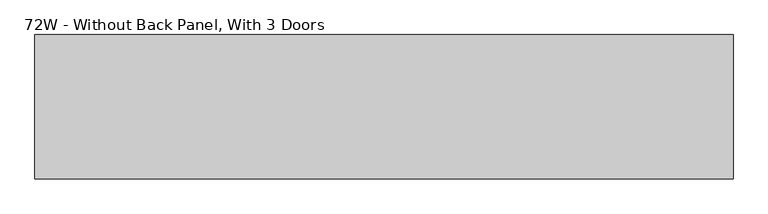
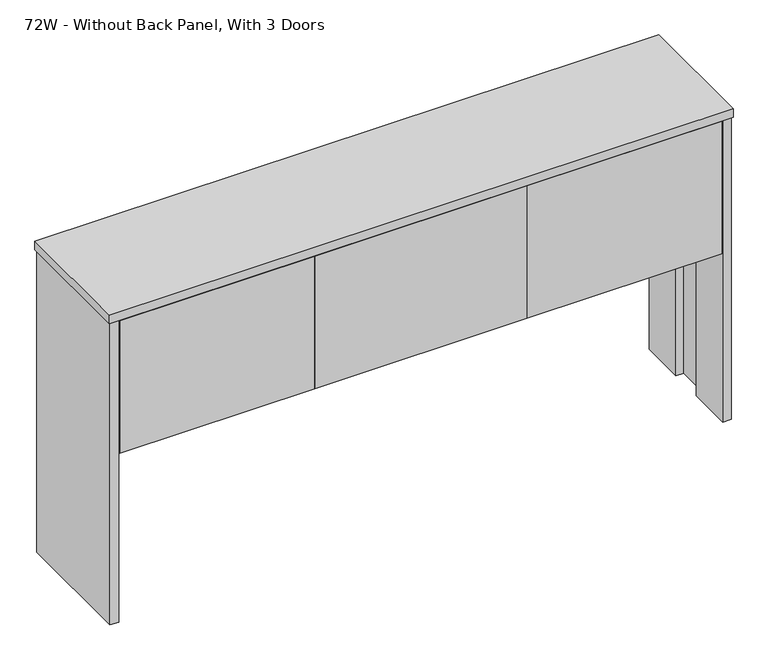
"""IFC4 building model written with IfcOpenShell, lengths in millimetres: furniture geometry, Steelcase - Kick Freestanding - Overhead Storage Cabinet With Hinge Door : 72W - Without Back Panel, With 3 Doors."""

from ifc_helpers import new_model, si_unit, frame, origin, place, context, project, spatial, polyline, outline, extrude, source, transform, mapped, element, save


def furniture_72w_without_back_panel_with_3_doors_f90ec6ce(model_context):
    return source(origin(), model_context, "Body", "SweptSolid", [
        extrude(outline(polyline([(606.2138992, -396.8750114), (606.2138992, -377.8250114), (1222.1638992, -377.8250114), (1222.1638992, -396.8750114), (606.2138992, -396.8750114)])), frame((0.0, 0.0, 1012.5930246), z_axis=(0.0, 0.0, 1.0), x_axis=(1.0, 0.0, 0.0)), (0.0, 0.0, 1.0), 406.4000484),
        extrude(outline(polyline([(1790.3618992, -28.5781763), (1815.8872195, -28.5781763), (1815.8872195, -396.8781725), (1790.3618992, -396.8781725), (1790.3618992, -263.5281725), (1812.7122191, -263.5281725), (1812.7122191, -161.9281786), (1790.3618992, -161.9281786), (1790.3618992, -28.5781763)])), frame((0.0, 0.0, 495.068073), z_axis=(0.0, 0.0, 1.0), x_axis=(1.0, 0.0, 0.0)), (0.0, 0.0, 1.0), 927.1),
        extrude(outline(polyline([(1222.1638992, -377.8250114), (1787.3126896, -377.8250114), (1787.3126896, -396.8750114), (1222.1638992, -396.8750114), (1222.1638992, -377.8250114)])), frame((0.0, 0.0, 1012.5930246), z_axis=(0.0, 0.0, 1.0), x_axis=(1.0, 0.0, 0.0)), (0.0, 0.0, 1.0), 406.4000484),
        extrude(outline(polyline([(606.2138992, -377.8250114), (606.2138992, -396.8750114), (41.0639007, -396.8750114), (41.0639007, -377.8250114), (606.2138992, -377.8250114)])), frame((0.0, 0.0, 1012.5930246), z_axis=(0.0, 0.0, 1.0), x_axis=(1.0, 0.0, 0.0)), (0.0, 0.0, 1.0), 406.4000484),
        extrude(outline(polyline([(1790.3618992, -53.9789719), (38.0158992, -53.9789719), (38.0158992, -28.5789734), (1790.3618992, -28.5789734), (1790.3618992, -53.9789719)])), frame((0.0, 0.0, 1012.720073), z_axis=(0.0, 0.0, 1.0), x_axis=(1.0, 0.0, 0.0)), (0.0, 0.0, 1.0), 409.448),
        extrude(outline(polyline([(38.0158992, -28.5781763), (38.0158992, -161.9281786), (15.6638988, -161.9281786), (15.6638988, -263.5281725), (38.0158992, -263.5281725), (38.0158992, -396.8781725), (12.4888985, -396.8781725), (12.4888985, -28.5781763), (38.0158992, -28.5781763)])), frame((0.0, 0.0, 495.068073), z_axis=(0.0, 0.0, 1.0), x_axis=(1.0, 0.0, 0.0)), (0.0, 0.0, 1.0), 927.1),
        extrude(outline(polyline([(1819.0638992, -25.4), (1819.0638992, -400.05), (9.3138992, -400.05), (9.3138992, -25.4), (1819.0638992, -25.4)])), frame((0.0, 0.0, 1422.168073), z_axis=(0.0, 0.0, 1.0), x_axis=(1.0, 0.0, 0.0)), (0.0, 0.0, 1.0), 25.4),
    ])


if __name__ == "__main__":
    model = new_model("IFC4")
    model_context = context("Model", 3, world=origin())
    ifc_project = project(units=[si_unit("LENGTHUNIT", "METRE", prefix="MILLI")], contexts=[model_context])
    site = spatial("IfcSite", under=ifc_project)
    building = spatial("IfcBuilding", under=site)
    placement = place(None, origin())
    furniture_72w_without_back_panel_with_3_doors_shape = furniture_72w_without_back_panel_with_3_doors_f90ec6ce(model_context)
    element("IfcFurniture", 1, ObjectType="Steelcase - Kick Freestanding - Overhead Storage Cabinet With Hinge Door : 72W - Without Back Panel, With 3 Doors", at=placement, inside=building, context=model_context, shape_type="MappedRepresentation", body=[
        mapped(furniture_72w_without_back_panel_with_3_doors_shape, transform((0.0, 0.0, 0.0), x_axis=(1.0, 0.0, 0.0), y_axis=(0.0, 1.0, 0.0), z_axis=(0.0, 0.0, 1.0))),
    ])
    save(model, "model.ifc")
